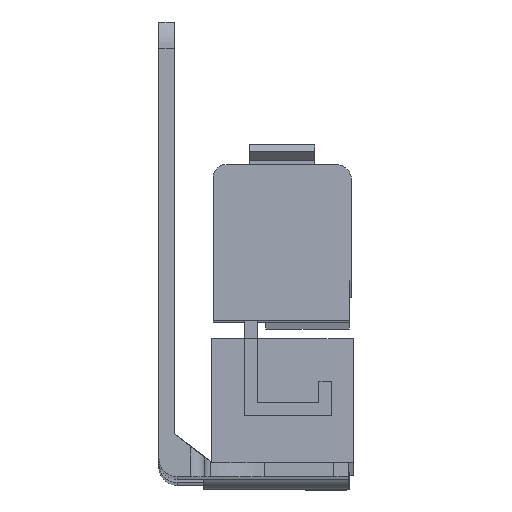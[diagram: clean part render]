
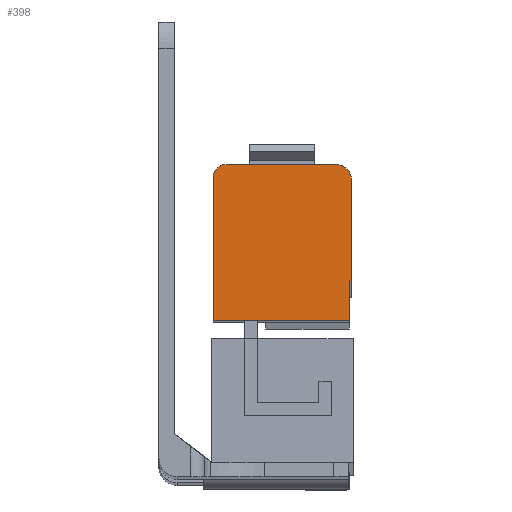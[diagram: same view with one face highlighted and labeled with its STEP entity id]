
A CAD part, front view. The second image highlights one B-rep face of the part: STEP entity #398.
In plain terms, the highlighted planar face has unit normal (0, -1, 0.005).
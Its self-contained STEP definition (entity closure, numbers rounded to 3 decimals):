
#116 = VERTEX_POINT ( 'NONE', #4144 ) ;
#153 = VERTEX_POINT ( 'NONE', #1718 ) ;
#168 = VERTEX_POINT ( 'NONE', #1733 ) ;
#183 = VERTEX_POINT ( 'NONE', #1748 ) ;
#188 = VERTEX_POINT ( 'NONE', #1753 ) ;
#190 = VERTEX_POINT ( 'NONE', #1755 ) ;
#192 = VERTEX_POINT ( 'NONE', #1757 ) ;
#197 = VERTEX_POINT ( 'NONE', #1762 ) ;
#398 = ADVANCED_FACE ( 'NONE', ( #1260 ), #2114, .T. ) ;
#554 = ORIENTED_EDGE ( 'NONE', *, *, #4508, .T. ) ;
#555 = ORIENTED_EDGE ( 'NONE', *, *, #4511, .T. ) ;
#556 = ORIENTED_EDGE ( 'NONE', *, *, #4515, .T. ) ;
#557 = ORIENTED_EDGE ( 'NONE', *, *, #4518, .T. ) ;
#558 = ORIENTED_EDGE ( 'NONE', *, *, #4522, .T. ) ;
#559 = ORIENTED_EDGE ( 'NONE', *, *, #4526, .T. ) ;
#560 = ORIENTED_EDGE ( 'NONE', *, *, #4527, .T. ) ;
#561 = ORIENTED_EDGE ( 'NONE', *, *, #4523, .T. ) ;
#1260 = FACE_OUTER_BOUND ( 'NONE', #3996, .T. ) ;
#1718 = CARTESIAN_POINT ( 'NONE',  ( 7.5, -21.683, -6.428 ) ) ;
#1733 = CARTESIAN_POINT ( 'NONE',  ( 26.5, -21.758, -20.678 ) ) ;
#1748 = CARTESIAN_POINT ( 'NONE',  ( 26.5, -21.685, -6.728 ) ) ;
#1753 = CARTESIAN_POINT ( 'NONE',  ( 26.25, -21.787, -26.178 ) ) ;
#1755 = CARTESIAN_POINT ( 'NONE',  ( 9.25, -21.674, -4.678 ) ) ;
#1757 = CARTESIAN_POINT ( 'NONE',  ( 26.25, -21.758, -20.678 ) ) ;
#1762 = CARTESIAN_POINT ( 'NONE',  ( 7.5, -21.787, -26.178 ) ) ;
#2114 = PLANE ( 'NONE',  #4614 ) ;
#2115 = CARTESIAN_POINT ( 'NONE',  ( 9.25, -21.683, -6.428 ) ) ;
#2116 = DIRECTION ( 'NONE',  ( 0., -1., 0.005 ) ) ;
#2117 = DIRECTION ( 'NONE',  ( 0., -0.005, -1. ) ) ;
#2988 = AXIS2_PLACEMENT_3D ( 'NONE', #3746, #3747, #3748 ) ;
#2989 = AXIS2_PLACEMENT_3D ( 'NONE', #3761, #3762, #3763 ) ;
#3329 = LINE ( 'NONE', #3740, #3330 ) ;
#3330 = VECTOR ( 'NONE', #3741, 1000. ) ;
#3336 = CIRCLE ( 'NONE', #2988, 2.05 ) ;
#3342 = LINE ( 'NONE', #3755, #3343 ) ;
#3343 = VECTOR ( 'NONE', #3756, 1000. ) ;
#3349 = CIRCLE ( 'NONE', #2989, 1.75 ) ;
#3355 = LINE ( 'NONE', #3770, #3356 ) ;
#3356 = VECTOR ( 'NONE', #3771, 1000. ) ;
#3357 = LINE ( 'NONE', #3772, #3358 ) ;
#3358 = VECTOR ( 'NONE', #3773, 1000. ) ;
#3363 = LINE ( 'NONE', #3778, #3364 ) ;
#3364 = VECTOR ( 'NONE', #3779, 1000. ) ;
#3365 = LINE ( 'NONE', #3780, #3366 ) ;
#3366 = VECTOR ( 'NONE', #3781, 1000. ) ;
#3740 = CARTESIAN_POINT ( 'NONE',  ( 26.5, -21.685, -6.728 ) ) ;
#3741 = DIRECTION ( 'NONE',  ( 0., 0.005, 1. ) ) ;
#3746 = CARTESIAN_POINT ( 'NONE',  ( 24.45, -21.685, -6.728 ) ) ;
#3747 = DIRECTION ( 'NONE',  ( 0., -1., 0.005 ) ) ;
#3748 = DIRECTION ( 'NONE',  ( 0., 0.005, 1. ) ) ;
#3755 = CARTESIAN_POINT ( 'NONE',  ( 9.25, -21.674, -4.678 ) ) ;
#3756 = DIRECTION ( 'NONE',  ( -1., 0., 0. ) ) ;
#3761 = CARTESIAN_POINT ( 'NONE',  ( 9.25, -21.683, -6.428 ) ) ;
#3762 = DIRECTION ( 'NONE',  ( 0., -1., 0.005 ) ) ;
#3763 = DIRECTION ( 'NONE',  ( 0., -0.005, -1. ) ) ;
#3770 = CARTESIAN_POINT ( 'NONE',  ( 7.5, -21.683, -6.428 ) ) ;
#3771 = DIRECTION ( 'NONE',  ( 0., -0.005, -1. ) ) ;
#3772 = CARTESIAN_POINT ( 'NONE',  ( 7.5, -21.758, -20.678 ) ) ;
#3773 = DIRECTION ( 'NONE',  ( 1., 0., 0. ) ) ;
#3778 = CARTESIAN_POINT ( 'NONE',  ( 26.25, -21.787, -26.178 ) ) ;
#3779 = DIRECTION ( 'NONE',  ( 1., 0., 0. ) ) ;
#3780 = CARTESIAN_POINT ( 'NONE',  ( 26.25, -21.787, -26.178 ) ) ;
#3781 = DIRECTION ( 'NONE',  ( 0., 0.005, 1. ) ) ;
#3996 = EDGE_LOOP ( 'NONE', ( #554, #555, #556, #557, #558, #559, #560, #561 ) ) ;
#4144 = CARTESIAN_POINT ( 'NONE',  ( 24.45, -21.674, -4.678 ) ) ;
#4508 = EDGE_CURVE ( 'NONE', #168, #183, #3329, .T. ) ;
#4511 = EDGE_CURVE ( 'NONE', #183, #116, #3336, .T. ) ;
#4515 = EDGE_CURVE ( 'NONE', #116, #190, #3342, .T. ) ;
#4518 = EDGE_CURVE ( 'NONE', #190, #153, #3349, .T. ) ;
#4522 = EDGE_CURVE ( 'NONE', #153, #197, #3355, .T. ) ;
#4523 = EDGE_CURVE ( 'NONE', #192, #168, #3357, .T. ) ;
#4526 = EDGE_CURVE ( 'NONE', #197, #188, #3363, .T. ) ;
#4527 = EDGE_CURVE ( 'NONE', #188, #192, #3365, .T. ) ;
#4614 = AXIS2_PLACEMENT_3D ( 'NONE', #2115, #2116, #2117 ) ;
